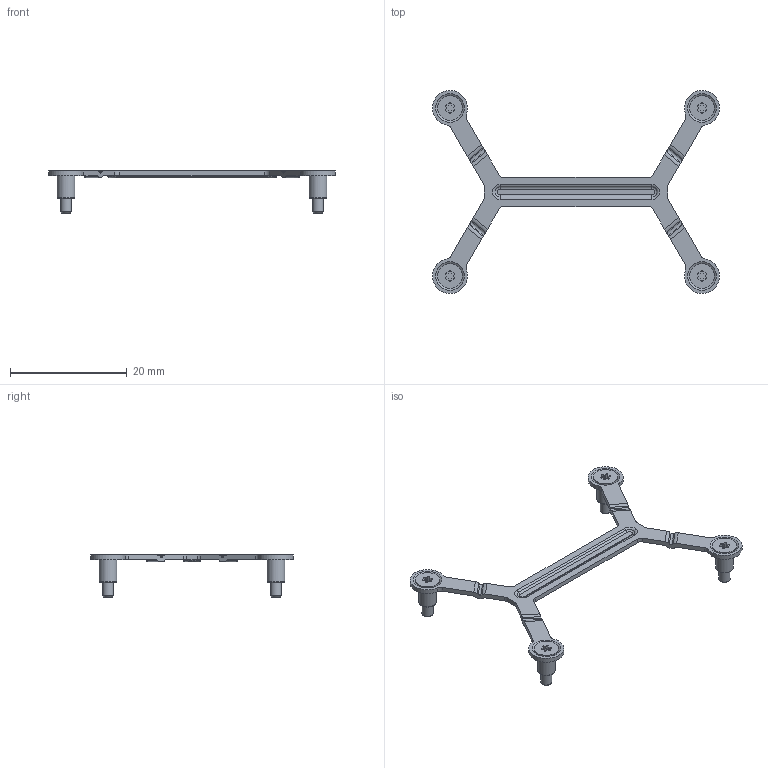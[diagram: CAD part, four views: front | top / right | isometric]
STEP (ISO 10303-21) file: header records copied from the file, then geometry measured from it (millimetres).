
FILE_DESCRIPTION(/* description */ (''),/* implementation_level */ '2;1');
FILE_NAME(/* name */ '/Users/chris/Downloads/NX Leaf Spring Kit.step',/* time_stamp */ '2021-10-14T09:24:52-04:00',/* author */ (''),/* organization */ (''),/* preprocessor_version */ 'ST-DEVELOPER v18.1',/* originating_system */ 'Autodesk Translation Framework v10.10.0.1391',/* authorisation */ '');
FILE_SCHEMA (('AUTOMOTIVE_DESIGN { 1 0 10303 214 3 1 1 }'));
Length unit declared in the file: millimetre
Products named in the file (3): NX Leaf Spring Kit; NX Leaf Spring Detailed; NX Screw
Assembly tree (5 placements, depth 2):
  NX Leaf Spring Kit
    NX Leaf Spring Detailed
    NX Screw  x4
Bounding box: 49.19 x 34.79 x 7.25 mm (x, y, z)
Volume: 470.1 mm3; surface area: 1319.3 mm2
Topology: 5 solids, 5 shells, 220 faces, 576 edges, 376 vertices
Faces by surface type: plane 104, cylinder 92, torus 12, cone 12
Full cylindrical faces by diameter (mm): 1.9 x4, 3 x4, 3.5 x4, 4.2 x4
Entity records: 4448 total; most frequent: DIRECTION 807, CARTESIAN_POINT 754, ORIENTED_EDGE 738, EDGE_CURVE 369, AXIS2_PLACEMENT_3D 294, VERTEX_POINT 241, LINE 219, VECTOR 219
